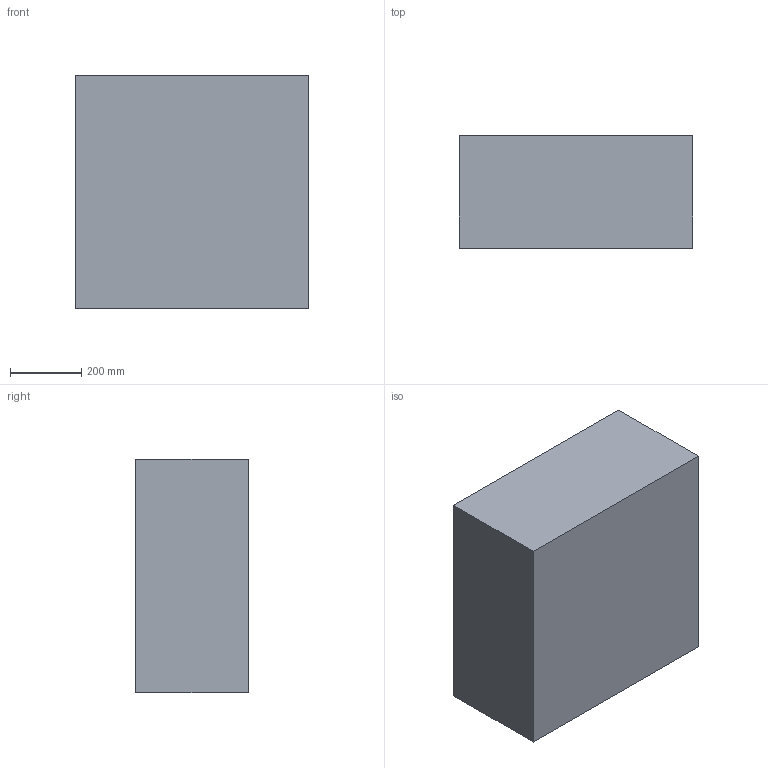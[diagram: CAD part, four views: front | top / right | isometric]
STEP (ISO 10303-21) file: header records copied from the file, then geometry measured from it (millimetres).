
FILE_DESCRIPTION (( 'STEP AP214' ), '1' );
FILE_NAME ('1640E - 932 BOTTOM PID 2-21-2025.STEP', '2025-05-22T05:05:23', ( '' ), ( '' ), 'SwSTEP 2.0', 'SolidWorks 2021', '' );
FILE_SCHEMA (( 'AUTOMOTIVE_DESIGN' ));
Length unit declared in the file: inch
Products named in the file (1): 1640E - 932 BOTTOM PID 2-21-2025
Bounding box: 656.29 x 317.5 x 656.29 mm (x, y, z)
Surface area: 2387909 mm2 (no closed solid volume)
Topology: 0 solids, 2 shells, 170 faces, 397 edges, 220 vertices
Faces by surface type: bspline 61, cylinder 51, plane 49, sphere 4, cone 4, torus 1
Entity records: 6539 total; most frequent: CARTESIAN_POINT 3207, ORIENTED_EDGE 766, DIRECTION 571, EDGE_CURVE 385, VERTEX_POINT 220, AXIS2_PLACEMENT_3D 194, VECTOR 183, LINE 183
